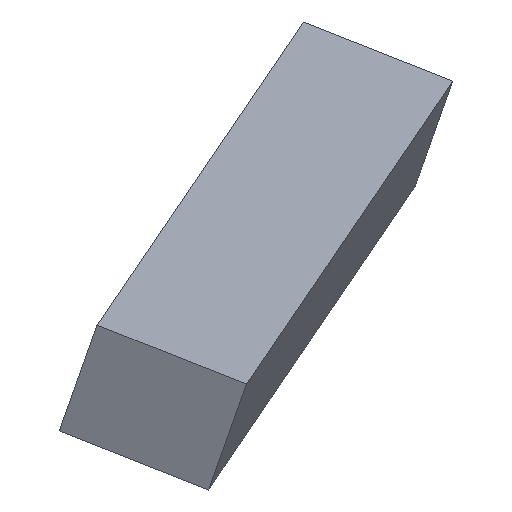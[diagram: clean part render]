
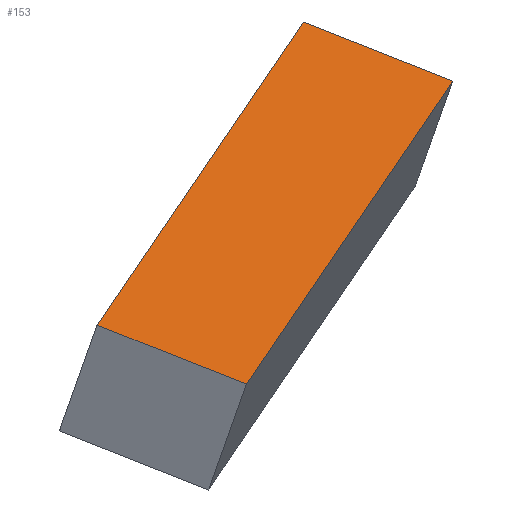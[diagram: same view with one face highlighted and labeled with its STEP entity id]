
A CAD part, isometric view. The second image highlights one B-rep face of the part: STEP entity #153.
In plain terms, the highlighted planar face has unit normal (0.365, -0.074, 0.928).
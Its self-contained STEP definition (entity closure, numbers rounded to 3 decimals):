
#24 = VERTEX_POINT('',#25);
#25 = CARTESIAN_POINT('',(255.472,-101.118,
    513.921));
#40 = VERTEX_POINT('',#41);
#41 = CARTESIAN_POINT('',(246.397,-83.995,518.864
    ));
#47 = EDGE_CURVE('',#24,#40,#48,.T.);
#48 = LINE('',#49,#50);
#49 = CARTESIAN_POINT('',(255.472,-101.118,
    513.921));
#50 = VECTOR('',#51,1.);
#51 = DIRECTION('',(-0.454,0.856,0.247));
#64 = VERTEX_POINT('',#65);
#65 = CARTESIAN_POINT('',(353.035,-39.763,
    480.497));
#80 = VERTEX_POINT('',#81);
#81 = CARTESIAN_POINT('',(343.96,-22.64,
    485.44));
#87 = EDGE_CURVE('',#64,#80,#88,.T.);
#88 = LINE('',#89,#90);
#89 = CARTESIAN_POINT('',(353.035,-39.763,
    480.497));
#90 = VECTOR('',#91,1.);
#91 = DIRECTION('',(-0.454,0.856,0.247));
#108 = EDGE_CURVE('',#24,#64,#109,.T.);
#109 = LINE('',#110,#111);
#110 = CARTESIAN_POINT('',(255.472,-101.118,
    513.921));
#111 = VECTOR('',#112,1.);
#112 = DIRECTION('',(0.813,0.511,-0.279));
#130 = EDGE_CURVE('',#40,#80,#131,.T.);
#131 = LINE('',#132,#133);
#132 = CARTESIAN_POINT('',(246.397,-83.995,
    518.864));
#133 = VECTOR('',#134,1.);
#134 = DIRECTION('',(0.813,0.511,-0.279));
#153 = ADVANCED_FACE('',(#154),#160,.T.);
#154 = FACE_BOUND('',#155,.T.);
#155 = EDGE_LOOP('',(#156,#157,#158,#159));
#156 = ORIENTED_EDGE('',*,*,#47,.F.);
#157 = ORIENTED_EDGE('',*,*,#108,.T.);
#158 = ORIENTED_EDGE('',*,*,#87,.T.);
#159 = ORIENTED_EDGE('',*,*,#130,.F.);
#160 = PLANE('',#161);
#161 = AXIS2_PLACEMENT_3D('',#162,#163,#164);
#162 = CARTESIAN_POINT('',(255.472,-101.118,
    513.921));
#163 = DIRECTION('',(0.365,-0.075,0.928));
#164 = DIRECTION('',(0.813,0.511,-0.279));
